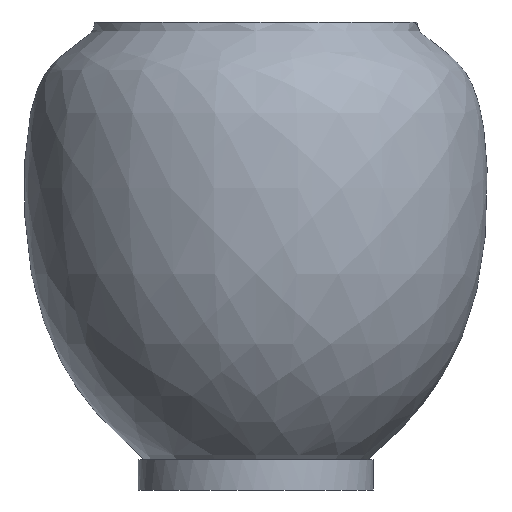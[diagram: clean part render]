
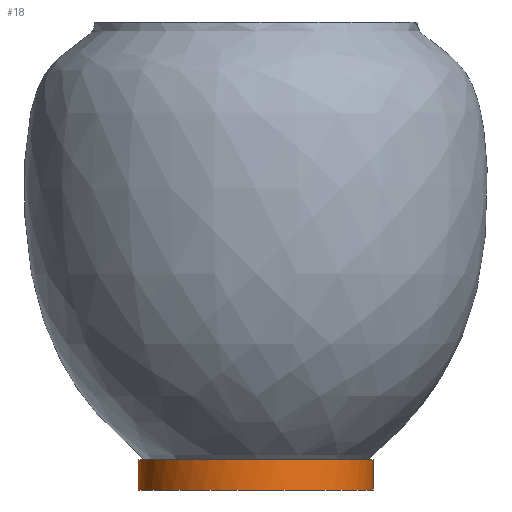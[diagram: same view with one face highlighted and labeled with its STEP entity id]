
A CAD part, front view. The second image highlights one B-rep face of the part: STEP entity #18.
In plain terms, the highlighted free-form (B-spline) face has degree [2, 1] with [5, 2] control points.
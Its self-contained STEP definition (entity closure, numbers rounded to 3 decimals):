
#18=ADVANCED_FACE('',(#37),#408,.T.);
#37=FACE_OUTER_BOUND('',#56,.T.);
#56=EDGE_LOOP('',(#76,#77,#78,#79));
#76=ORIENTED_EDGE('',*,*,#314,.T.);
#77=ORIENTED_EDGE('',*,*,#315,.T.);
#78=ORIENTED_EDGE('',*,*,#316,.T.);
#79=ORIENTED_EDGE('',*,*,#317,.T.);
#144=PCURVE('',#408,#212);
#145=PCURVE('',#408,#213);
#146=PCURVE('',#408,#214);
#147=PCURVE('',#408,#215);
#149=PCURVE('',#405,#217);
#152=PCURVE('',#406,#220);
#161=PCURVE('',#410,#229);
#163=PCURVE('',#410,#231);
#212=DEFINITIONAL_REPRESENTATION('',(#427),#10154);
#213=DEFINITIONAL_REPRESENTATION('',(#428),#10154);
#214=DEFINITIONAL_REPRESENTATION('',(#429),#10154);
#215=DEFINITIONAL_REPRESENTATION('',(#430),#10154);
#217=DEFINITIONAL_REPRESENTATION('',(#354),#10154);
#220=DEFINITIONAL_REPRESENTATION('',(#359),#10154);
#229=DEFINITIONAL_REPRESENTATION('',(#436),#10154);
#231=DEFINITIONAL_REPRESENTATION('',(#438),#10154);
#280=SURFACE_CURVE('',#348,(#144,#163),.PCURVE_S1.);
#281=SURFACE_CURVE('',#349,(#145,#152),.PCURVE_S1.);
#282=SURFACE_CURVE('',#350,(#146,#161),.PCURVE_S1.);
#283=SURFACE_CURVE('',#351,(#147,#149),.PCURVE_S1.);
#314=EDGE_CURVE('',#389,#390,#280,.T.);
#315=EDGE_CURVE('',#390,#386,#281,.T.);
#316=EDGE_CURVE('',#386,#385,#282,.T.);
#317=EDGE_CURVE('',#385,#389,#283,.T.);
#348=(
BOUNDED_CURVE()
B_SPLINE_CURVE(1,(#652,#653),.UNSPECIFIED.,.F.,.F.)
B_SPLINE_CURVE_WITH_KNOTS((2,2),(0.,24.598),.UNSPECIFIED.)
CURVE()
GEOMETRIC_REPRESENTATION_ITEM()
RATIONAL_B_SPLINE_CURVE((1.,1.))
REPRESENTATION_ITEM('')
);
#349=(
BOUNDED_CURVE()
B_SPLINE_CURVE(2,(#656,#657,#658,#659,#660),.UNSPECIFIED.,.F.,.F.)
B_SPLINE_CURVE_WITH_KNOTS((3,2,3),(-438.747,-219.374,
0.),.UNSPECIFIED.)
CURVE()
GEOMETRIC_REPRESENTATION_ITEM()
RATIONAL_B_SPLINE_CURVE((1.,0.707,1.,0.707,1.))
REPRESENTATION_ITEM('')
);
#350=(
BOUNDED_CURVE()
B_SPLINE_CURVE(1,(#663,#664),.UNSPECIFIED.,.F.,.F.)
B_SPLINE_CURVE_WITH_KNOTS((2,2),(-24.598,0.),.UNSPECIFIED.)
CURVE()
GEOMETRIC_REPRESENTATION_ITEM()
RATIONAL_B_SPLINE_CURVE((1.,1.))
REPRESENTATION_ITEM('')
);
#351=(
BOUNDED_CURVE()
B_SPLINE_CURVE(2,(#667,#668,#669,#670,#671),.UNSPECIFIED.,.F.,.F.)
B_SPLINE_CURVE_WITH_KNOTS((3,2,3),(0.,219.374,438.747),
 .UNSPECIFIED.)
CURVE()
GEOMETRIC_REPRESENTATION_ITEM()
RATIONAL_B_SPLINE_CURVE((1.,0.707,1.,0.707,1.))
REPRESENTATION_ITEM('')
);
#354=(
BOUNDED_CURVE()
B_SPLINE_CURVE(2,(#684,#685,#686,#687,#688),.UNSPECIFIED.,.F.,.F.)
B_SPLINE_CURVE_WITH_KNOTS((3,2,3),(0.,219.374,438.747),
 .UNSPECIFIED.)
CURVE()
GEOMETRIC_REPRESENTATION_ITEM()
RATIONAL_B_SPLINE_CURVE((1.,0.707,1.,0.707,1.))
REPRESENTATION_ITEM('')
);
#359=(
BOUNDED_CURVE()
B_SPLINE_CURVE(2,(#709,#710,#711,#712,#713),.UNSPECIFIED.,.F.,.F.)
B_SPLINE_CURVE_WITH_KNOTS((3,2,3),(-438.747,-219.374,
0.),.UNSPECIFIED.)
CURVE()
GEOMETRIC_REPRESENTATION_ITEM()
RATIONAL_B_SPLINE_CURVE((1.,0.707,1.,0.707,1.))
REPRESENTATION_ITEM('')
);
#385=VERTEX_POINT('',#644);
#386=VERTEX_POINT('',#645);
#389=VERTEX_POINT('',#648);
#390=VERTEX_POINT('',#649);
#405=B_SPLINE_SURFACE_WITH_KNOTS('',1,1,((#602,#603),(#604,#605)),
 .UNSPECIFIED.,.F.,.F.,.F.,(2,2),(2,2),(-137.5,137.5),(-137.5,137.5),
 .UNSPECIFIED.);
#406=B_SPLINE_SURFACE_WITH_KNOTS('',1,1,((#606,#607),(#608,#609)),
 .UNSPECIFIED.,.F.,.F.,.F.,(2,2),(2,2),(-137.5,137.5),(-137.5,137.5),
 .UNSPECIFIED.);
#408=(
BOUNDED_SURFACE()
B_SPLINE_SURFACE(2,1,((#592,#593),(#594,#595),(#596,#597),(#598,#599),(#600,
#601)),.UNSPECIFIED.,.F.,.F.,.F.)
B_SPLINE_SURFACE_WITH_KNOTS((3,2,3),(2,2),(0.,219.374,438.747),
(0.,24.598),.UNSPECIFIED.)
GEOMETRIC_REPRESENTATION_ITEM()
RATIONAL_B_SPLINE_SURFACE(((1.,1.),(0.707,0.707),
(1.,1.),(0.707,0.707),(1.,1.)))
REPRESENTATION_ITEM('')
SURFACE()
);
#410=(
BOUNDED_SURFACE()
B_SPLINE_SURFACE(2,1,((#624,#625),(#626,#627),(#628,#629),(#630,#631),(#632,
#633)),.UNSPECIFIED.,.F.,.F.,.F.)
B_SPLINE_SURFACE_WITH_KNOTS((3,2,3),(2,2),(438.747,658.121,
877.494),(0.,24.598),.UNSPECIFIED.)
GEOMETRIC_REPRESENTATION_ITEM()
RATIONAL_B_SPLINE_SURFACE(((1.,1.),(0.707,0.707),
(1.,1.),(0.707,0.707),(1.,1.)))
REPRESENTATION_ITEM('')
SURFACE()
);
#427=B_SPLINE_CURVE_WITH_KNOTS('',1,(#654,#655),.UNSPECIFIED.,.F.,.F.,(2,
2),(0.,24.598),.UNSPECIFIED.);
#428=B_SPLINE_CURVE_WITH_KNOTS('',1,(#661,#662),.UNSPECIFIED.,.F.,.F.,(2,
2),(-438.747,0.),.UNSPECIFIED.);
#429=B_SPLINE_CURVE_WITH_KNOTS('',1,(#665,#666),.UNSPECIFIED.,.F.,.F.,(2,
2),(-24.598,0.),.UNSPECIFIED.);
#430=B_SPLINE_CURVE_WITH_KNOTS('',1,(#672,#673),.UNSPECIFIED.,.F.,.F.,(2,
2),(0.,438.747),.UNSPECIFIED.);
#436=B_SPLINE_CURVE_WITH_KNOTS('',1,(#758,#759),.UNSPECIFIED.,.F.,.F.,(2,
2),(-24.598,0.),.UNSPECIFIED.);
#438=B_SPLINE_CURVE_WITH_KNOTS('',1,(#762,#763),.UNSPECIFIED.,.F.,.F.,(2,
2),(0.,24.598),.UNSPECIFIED.);
#592=CARTESIAN_POINT('',(38577.18,-10038.726,36.83));
#593=CARTESIAN_POINT('',(38577.18,-10038.726,1.83));
#594=CARTESIAN_POINT('',(38577.18,-10173.726,36.83));
#595=CARTESIAN_POINT('',(38577.18,-10173.726,1.83));
#596=CARTESIAN_POINT('',(38442.18,-10173.726,36.83));
#597=CARTESIAN_POINT('',(38442.18,-10173.726,1.83));
#598=CARTESIAN_POINT('',(38307.18,-10173.726,36.83));
#599=CARTESIAN_POINT('',(38307.18,-10173.726,1.83));
#600=CARTESIAN_POINT('',(38307.18,-10038.726,36.83));
#601=CARTESIAN_POINT('',(38307.18,-10038.726,1.83));
#602=CARTESIAN_POINT('',(38273.43,-9869.976,36.83));
#603=CARTESIAN_POINT('',(38610.93,-9869.976,36.83));
#604=CARTESIAN_POINT('',(38273.43,-10207.476,36.83));
#605=CARTESIAN_POINT('',(38610.93,-10207.476,36.83));
#606=CARTESIAN_POINT('',(38273.43,-9869.976,1.83));
#607=CARTESIAN_POINT('',(38273.43,-10207.476,1.83));
#608=CARTESIAN_POINT('',(38610.93,-9869.976,1.83));
#609=CARTESIAN_POINT('',(38610.93,-10207.476,1.83));
#624=CARTESIAN_POINT('',(38307.18,-10038.726,36.83));
#625=CARTESIAN_POINT('',(38307.18,-10038.726,1.83));
#626=CARTESIAN_POINT('',(38307.18,-9903.726,36.83));
#627=CARTESIAN_POINT('',(38307.18,-9903.726,1.83));
#628=CARTESIAN_POINT('',(38442.18,-9903.726,36.83));
#629=CARTESIAN_POINT('',(38442.18,-9903.726,1.83));
#630=CARTESIAN_POINT('',(38577.18,-9903.726,36.83));
#631=CARTESIAN_POINT('',(38577.18,-9903.726,1.83));
#632=CARTESIAN_POINT('',(38577.18,-10038.726,36.83));
#633=CARTESIAN_POINT('',(38577.18,-10038.726,1.83));
#644=CARTESIAN_POINT('',(38577.18,-10038.726,36.83));
#645=CARTESIAN_POINT('',(38577.18,-10038.726,1.83));
#648=CARTESIAN_POINT('',(38307.18,-10038.726,36.83));
#649=CARTESIAN_POINT('',(38307.18,-10038.726,1.83));
#652=CARTESIAN_POINT('',(38307.18,-10038.726,36.83));
#653=CARTESIAN_POINT('',(38307.18,-10038.726,1.83));
#654=CARTESIAN_POINT('',(438.747,0.));
#655=CARTESIAN_POINT('',(438.747,24.598));
#656=CARTESIAN_POINT('',(38307.18,-10038.726,1.83));
#657=CARTESIAN_POINT('',(38307.18,-10173.726,1.83));
#658=CARTESIAN_POINT('',(38442.18,-10173.726,1.83));
#659=CARTESIAN_POINT('',(38577.18,-10173.726,1.83));
#660=CARTESIAN_POINT('',(38577.18,-10038.726,1.83));
#661=CARTESIAN_POINT('',(438.747,24.598));
#662=CARTESIAN_POINT('',(0.,24.598));
#663=CARTESIAN_POINT('',(38577.18,-10038.726,1.83));
#664=CARTESIAN_POINT('',(38577.18,-10038.726,36.83));
#665=CARTESIAN_POINT('',(0.,24.598));
#666=CARTESIAN_POINT('',(0.,0.));
#667=CARTESIAN_POINT('',(38577.18,-10038.726,36.83));
#668=CARTESIAN_POINT('',(38577.18,-10173.726,36.83));
#669=CARTESIAN_POINT('',(38442.18,-10173.726,36.83));
#670=CARTESIAN_POINT('',(38307.18,-10173.726,36.83));
#671=CARTESIAN_POINT('',(38307.18,-10038.726,36.83));
#672=CARTESIAN_POINT('',(0.,0.));
#673=CARTESIAN_POINT('',(438.747,0.));
#684=CARTESIAN_POINT('',(0.,110.));
#685=CARTESIAN_POINT('',(110.,110.));
#686=CARTESIAN_POINT('',(110.,0.));
#687=CARTESIAN_POINT('',(110.,-110.));
#688=CARTESIAN_POINT('',(0.,-110.));
#709=CARTESIAN_POINT('',(-110.,0.));
#710=CARTESIAN_POINT('',(-110.,110.));
#711=CARTESIAN_POINT('',(0.,110.));
#712=CARTESIAN_POINT('',(110.,110.));
#713=CARTESIAN_POINT('',(110.,0.));
#758=CARTESIAN_POINT('',(877.494,24.598));
#759=CARTESIAN_POINT('',(877.494,0.));
#762=CARTESIAN_POINT('',(438.747,0.));
#763=CARTESIAN_POINT('',(438.747,24.598));
#10154=(
GEOMETRIC_REPRESENTATION_CONTEXT(2)
PARAMETRIC_REPRESENTATION_CONTEXT()
REPRESENTATION_CONTEXT('pspace','')
);
